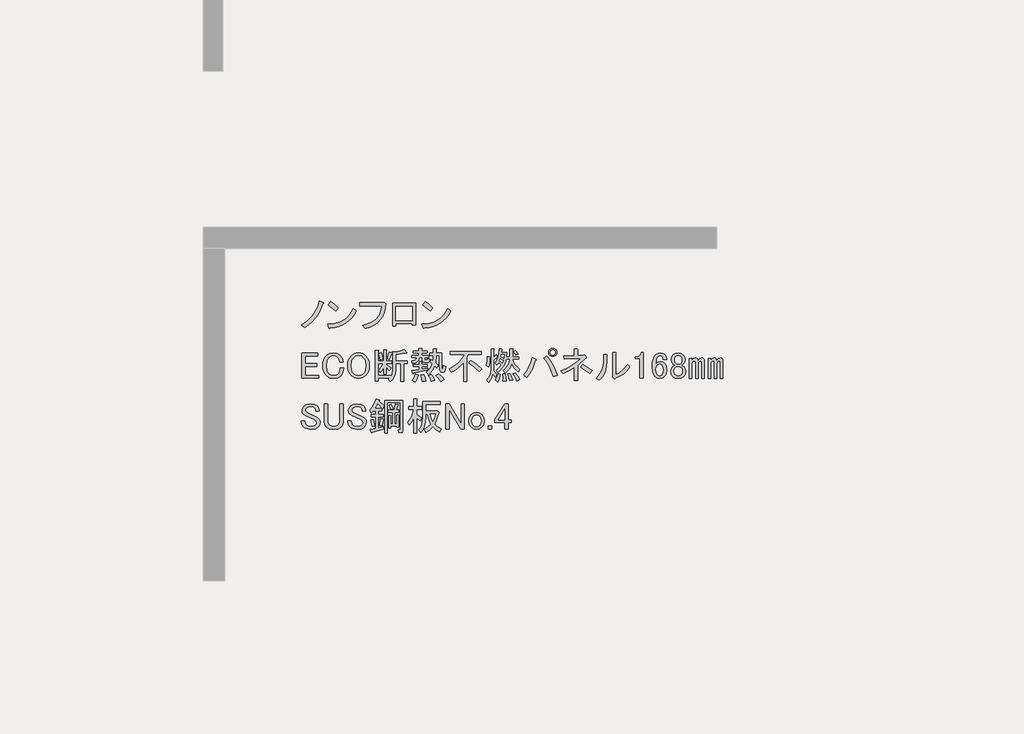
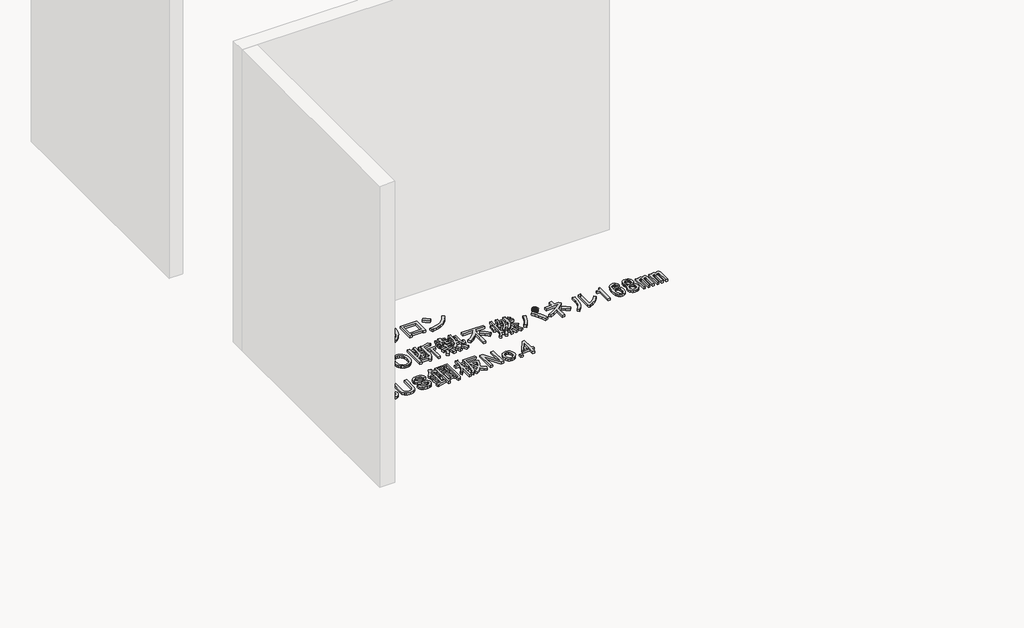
# One storey, part 54 of 117: 1 proxy.
"""IFC4 building model written with IfcOpenShell, lengths in millimetres."""

from ifc_helpers import new_model, si_unit, frame, origin, place, context, project, spatial, polyline, outline, extrude, element, save

model = new_model("IFC4")

# Units and contexts
model_context = context("Model", 3, world=origin())
ifc_project = project(units=[si_unit("LENGTHUNIT", "METRE", prefix="MILLI")], contexts=[model_context])

# Site, building, storey
site = spatial("IfcSite", under=ifc_project)
building = spatial("IfcBuilding", under=site)
storey = spatial("IfcBuildingStorey", under=building, Name="レベル 1", Elevation=500.0)

# Proxy
placement = place(None, origin())
element("IfcBuildingElementProxy", 1, Name="200㎜\u3000MS Pゴシック", ObjectType="200㎜\u3000MS Pゴシック", at=placement, inside=storey, context=model_context, shape_type="SweptSolid", body=[
    extrude(outline(polyline([(48940.1706985, -20603.5496882), (48914.5952502, -20663.3215225), (48886.146156, -20709.2998566), (48844.4782907, -20754.7034615), (48795.3389462, -20792.060858), (48767.7519457, -20770.2211493), (48815.4544673, -20739.7605029), (48855.1107805, -20701.2536481), (48872.4963381, -20677.3305462), (48887.8703435, -20649.2406577), (48901.2327969, -20616.9839827), (48912.5836981, -20580.5605212), (48943.6190736, -20594.3540214), (48946.7800841, -20598.9518548), (48940.1706985, -20603.5496882)])), frame((0.0, 0.0, 500.0), z_axis=(0.0, 0.0, 1.0), x_axis=(1.0, 0.0, 0.0)), (0.0, 0.0, 1.0), 25.0),
    extrude(outline(polyline([(49039.8977052, -20658.7236891), (48981.2753292, -20611.5958967), (49000.8161212, -20587.4572713), (49028.1157571, -20607.2854279), (49061.7374138, -20636.8839804), (49039.8977052, -20658.7236891)])), frame((0.0, 0.0, 500.0), z_axis=(0.0, 0.0, 1.0), x_axis=(1.0, 0.0, 0.0)), (0.0, 0.0, 1.0), 25.0),
    extrude(outline(polyline([(49201.9713328, -20658.7236891), (49185.447869, -20688.465924), (49166.3381239, -20714.4724192), (49144.6420975, -20736.7431748), (49120.3597898, -20755.2781907), (49093.4912008, -20770.077467), (49064.0363306, -20781.1410036), (49031.995179, -20788.4688006), (48997.3677461, -20792.060858), (48991.6204544, -20800.1070664), (48985.8731626, -20794.3597747), (48976.6774958, -20764.4738575), (49012.5082679, -20761.7977748), (49045.2857912, -20755.4937141), (49075.0100658, -20745.5616756), (49101.6810916, -20732.0016591), (49125.2988687, -20714.8136646), (49145.863397, -20693.9976923), (49163.3746766, -20669.553742), (49177.8327074, -20641.4818138), (49201.9713328, -20658.7236891)])), frame((0.0, 0.0, 500.0), z_axis=(0.0, 0.0, 1.0), x_axis=(1.0, 0.0, 0.0)), (0.0, 0.0, 1.0), 25.0),
    extrude(outline(polyline([(49252.7314136, -20773.6695243), (49286.514713, -20763.9889298), (49316.0234641, -20751.6142922), (49341.257667, -20736.5456116), (49362.2173217, -20718.782888), (49378.902428, -20698.3261214), (49391.3129862, -20675.1753118), (49399.4489961, -20649.3304591), (49403.3104577, -20620.7915635), (49230.8917049, -20620.7915635), (49230.8917049, -20595.5034798), (49405.6093744, -20595.5034798), (49421.7017914, -20592.0551047), (49434.3458332, -20603.5496882), (49430.825617, -20640.0449909), (49422.5638851, -20673.0919185), (49409.5606375, -20702.6904711), (49391.8158742, -20728.8406486), (49369.3295952, -20751.542451), (49342.1018005, -20770.7958784), (49310.1324901, -20786.6009308), (49273.421664, -20798.9576081), (49252.7314136, -20773.6695243)])), frame((0.0, 0.0, 500.0), z_axis=(0.0, 0.0, 1.0), x_axis=(1.0, 0.0, 0.0)), (0.0, 0.0, 1.0), 25.0),
    extrude(outline(polyline([(49667.455987, -20772.520066), (49641.0184449, -20772.520066), (49641.0184449, -20759.8760241), (49513.4285679, -20759.8760241), (49513.4285679, -20778.2673577), (49486.9910258, -20778.2673577), (49486.9910258, -20598.9518548), (49667.455987, -20598.9518548), (49667.455987, -20772.520066)]), holes=[polyline([(49513.4285679, -20624.2399386), (49513.4285679, -20734.5879404), (49641.0184449, -20734.5879404), (49641.0184449, -20624.2399386), (49513.4285679, -20624.2399386)])]), frame((0.0, 0.0, 500.0), z_axis=(0.0, 0.0, 1.0), x_axis=(1.0, 0.0, 0.0)), (0.0, 0.0, 1.0), 25.0),
    extrude(outline(polyline([(49943.5099049, -20658.7236891), (49926.9864411, -20688.465924), (49907.876696, -20714.4724192), (49886.1806696, -20736.7431748), (49861.8983619, -20755.2781907), (49835.0297729, -20770.077467), (49805.5749026, -20781.1410036), (49773.5337511, -20788.4688006), (49738.9063182, -20792.060858), (49733.1590264, -20800.1070664), (49727.4117347, -20794.3597747), (49718.2160679, -20764.4738575), (49754.0468399, -20761.7977748), (49786.8243633, -20755.4937141), (49816.5486378, -20745.5616756), (49843.2196637, -20732.0016591), (49866.8374407, -20714.8136646), (49887.4019691, -20693.9976923), (49904.9132486, -20669.553742), (49919.3712795, -20641.4818138), (49943.5099049, -20658.7236891)])), frame((0.0, 0.0, 500.0), z_axis=(0.0, 0.0, 1.0), x_axis=(1.0, 0.0, 0.0)), (0.0, 0.0, 1.0), 25.0),
    extrude(outline(polyline([(49781.4362772, -20658.7236891), (49722.8139013, -20611.5958967), (49742.3546933, -20587.4572713), (49769.6543291, -20607.2854279), (49803.2759859, -20636.8839804), (49781.4362772, -20658.7236891)])), frame((0.0, 0.0, 500.0), z_axis=(0.0, 0.0, 1.0), x_axis=(1.0, 0.0, 0.0)), (0.0, 0.0, 1.0), 25.0),
    extrude(outline(polyline([(48773.4992375, -20992.0551047), (48899.9396562, -20992.0551047), (48899.9396562, -21013.8948134), (48799.9367796, -21013.8948134), (48799.9367796, -21074.816106), (48893.0429061, -21074.816106), (48893.0429061, -21096.6558147), (48799.9367796, -21096.6558147), (48799.9367796, -21166.7727742), (48905.686948, -21166.7727742), (48905.686948, -21188.6124829), (48773.4992375, -21188.6124829), (48773.4992375, -20992.0551047)])), frame((0.0, 0.0, 500.0), z_axis=(0.0, 0.0, 1.0), x_axis=(1.0, 0.0, 0.0)), (0.0, 0.0, 1.0), 25.0),
    extrude(outline(polyline([(48937.7798252, -21090.908523), (48939.5758538, -21066.985421), (48944.9639399, -21045.7922827), (48953.9440832, -21027.3291079), (48966.516284, -21011.5958967), (48991.5170031, -20995.2161152), (49022.8397432, -20989.756188), (49053.5877541, -20994.641386), (49076.8642858, -21009.29698), (49092.6693381, -21032.8608762), (49098.7039944, -21062.1720642), (49071.116994, -21062.1720642), (49066.231796, -21040.9070847), (49056.1740354, -21025.3893969), (49040.9437123, -21015.0442717), (49022.8397432, -21011.5958967), (49003.2989512, -21015.6190009), (48986.0570759, -21027.6883136), (48977.0050914, -21039.3984206), (48970.5393882, -21053.8384911), (48965.3668256, -21090.908523), (48970.5393882, -21127.9785548), (48977.0050914, -21142.4186254), (48986.0570759, -21154.1287323), (49002.7242221, -21165.3359513), (49022.8397432, -21169.0716909), (49043.242629, -21165.9106804), (49058.4729521, -21156.427649), (49070.5422648, -21136.8868571), (49074.5653691, -21110.449315), (49102.1523695, -21110.449315), (49095.8303486, -21145.2204301), (49088.7899162, -21159.3731361), (49079.1632025, -21171.3706076), (49068.3151893, -21179.9197041), (49055.3119417, -21186.0262016), (49022.8397432, -21190.9113996), (48991.5170031, -21185.4514724), (48966.516284, -21169.0716909), (48953.9440832, -21153.4103209), (48944.9639399, -21135.1626695), (48939.5758538, -21114.3287369), (48937.7798252, -21090.908523)])), frame((0.0, 0.0, 500.0), z_axis=(0.0, 0.0, 1.0), x_axis=(1.0, 0.0, 0.0)), (0.0, 0.0, 1.0), 25.0),
    extrude(outline(polyline([(49133.1417667, -21089.7590646), (49134.8659542, -21066.9135799), (49140.0385168, -21046.6543764), (49148.6594544, -21028.9814543), (49160.7287671, -21013.8948134), (49173.4446501, -21003.3341648), (49187.4536738, -20995.7908443), (49202.7558381, -20991.2648521), (49219.3511431, -20989.756188), (49235.946448, -20991.2648521), (49251.2486123, -20995.7908443), (49265.257636, -21003.3341648), (49277.973519, -21013.8948134), (49290.0428317, -21028.9814543), (49298.6637694, -21046.6543764), (49303.836332, -21066.9135799), (49305.5605195, -21089.7590646), (49303.836332, -21112.6045494), (49298.6637694, -21132.8637528), (49290.0428317, -21150.536675), (49277.973519, -21165.6233159), (49265.257636, -21176.1839645), (49251.2486123, -21183.7272849), (49235.946448, -21188.2532772), (49219.3511431, -21189.7619413), (49202.7558381, -21188.2532772), (49187.4536738, -21183.7272849), (49173.4446501, -21176.1839645), (49160.7287671, -21165.6233159), (49148.6594544, -21150.536675), (49140.0385168, -21132.8637528), (49134.8659542, -21112.6045494), (49133.1417667, -21089.7590646)]), holes=[polyline([(49219.3511431, -21011.5958967), (49198.6608927, -21015.9063655), (49180.2695591, -21028.837772), (49171.7204626, -21039.9731498), (49165.6139651, -21053.8384911), (49160.7287671, -21089.7590646), (49165.6139651, -21125.6796381), (49171.7204626, -21139.5449795), (49180.2695591, -21150.6803573), (49198.6608927, -21163.6117637), (49219.3511431, -21167.9222326), (49240.0413934, -21163.6117637), (49258.432727, -21150.6803573), (49266.9818235, -21139.5449795), (49273.088321, -21125.6796381), (49277.973519, -21089.7590646), (49273.088321, -21053.8384911), (49266.9818235, -21039.9731498), (49258.432727, -21028.837772), (49240.0413934, -21015.9063655), (49219.3511431, -21011.5958967)])]), frame((0.0, 0.0, 500.0), z_axis=(0.0, 0.0, 1.0), x_axis=(1.0, 0.0, 0.0)), (0.0, 0.0, 1.0), 25.0),
    extrude(outline(polyline([(49444.3691101, -21035.7345221), (49461.6109854, -20982.8594379), (49482.3012357, -20988.6067296), (49484.0254232, -20991.7677401), (49480.002319, -20994.3540214), (49462.7604437, -21042.6312722), (49444.3691101, -21035.7345221)])), frame((0.0, 0.0, 500.0), z_axis=(0.0, 0.0, 1.0), x_axis=(1.0, 0.0, 0.0)), (0.0, 0.0, 1.0), 25.0),
    extrude(outline(polyline([(49598.3965292, -20987.4572713), (49596.6723417, -20992.0551047), (49589.2008624, -20989.756188), (49512.1871528, -21002.4002299), (49512.1871528, -21051.826939), (49604.143821, -21051.826939), (49604.143821, -21073.6666477), (49573.1084455, -21073.6666477), (49573.1084455, -21213.9005666), (49550.1192785, -21213.9005666), (49550.1192785, -21073.6666477), (49512.1871528, -21073.6666477), (49512.1871528, -21123.0933568), (49509.6008716, -21150.8958807), (49501.8420277, -21175.6810764), (49488.9106212, -21197.448944), (49470.8066522, -21216.1994833), (49453.5647769, -21196.6586914), (49463.9099021, -21187.4630245), (49374.2521506, -21187.4630245), (49374.2521506, -21209.3027332), (49351.2629836, -21209.3027332), (49351.2629836, -20970.215396), (49373.1026922, -20970.215396), (49377.9878902, -20972.5143127), (49374.2521506, -20977.1121461), (49374.2521506, -21052.9763974), (49416.7821096, -21052.9763974), (49416.7821096, -20965.6175626), (49435.1734433, -20965.6175626), (49440.0586413, -20967.9164793), (49436.3229016, -20972.5143127), (49436.3229016, -21052.9763974), (49480.002319, -21052.9763974), (49480.002319, -21071.367731), (49436.3229016, -21071.367731), (49436.3229016, -21080.5633978), (49476.5539439, -21107.0009399), (49462.7604437, -21128.8406486), (49436.3229016, -21102.4031065), (49436.3229016, -21155.2781907), (49416.7821096, -21155.2781907), (49416.7821096, -21107.0009399), (49403.5633386, -21126.8290965), (49389.1951092, -21142.6341488), (49376.5510673, -21124.2428152), (49398.390776, -21100.1041898), (49415.6326513, -21071.367731), (49374.2521506, -21071.367731), (49374.2521506, -21165.6233159), (49471.9561105, -21165.6233159), (49471.9561105, -21179.4168161), (49484.887517, -21155.2781907), (49489.1979858, -21121.9438985), (49489.1979858, -20977.1121461), (49511.0376945, -20982.8594379), (49547.2456326, -20975.3879586), (49577.7062789, -20962.1691875), (49598.3965292, -20987.4572713)])), frame((0.0, 0.0, 500.0), z_axis=(0.0, 0.0, 1.0), x_axis=(1.0, 0.0, 0.0)), (0.0, 0.0, 1.0), 25.0),
    extrude(outline(polyline([(49390.3445675, -21043.7807305), (49377.7005257, -20993.2045631), (49397.2413176, -20986.3078129), (49405.0001615, -21010.4464383), (49409.8853595, -21036.8839804), (49390.3445675, -21043.7807305)])), frame((0.0, 0.0, 500.0), z_axis=(0.0, 0.0, 1.0), x_axis=(1.0, 0.0, 0.0)), (0.0, 0.0, 1.0), 25.0),
    extrude(outline(polyline([(49734.0326148, -21159.8760241), (49744.0903754, -21187.17566), (49748.9755734, -21209.3027332), (49720.2391146, -21215.050025), (49717.6528333, -21193.4976809), (49709.8939894, -21163.3243992), (49734.0326148, -21159.8760241)])), frame((0.0, 0.0, 500.0), z_axis=(0.0, 0.0, 1.0), x_axis=(1.0, 0.0, 0.0)), (0.0, 0.0, 1.0), 25.0),
    extrude(outline(polyline([(49790.356074, -21212.7511083), (49782.022501, -21188.0377537), (49768.5163654, -21166.7727742), (49789.2066157, -21158.7265657), (49806.1611264, -21180.2789098), (49817.9430745, -21203.5554415), (49790.356074, -21212.7511083)])), frame((0.0, 0.0, 500.0), z_axis=(0.0, 0.0, 1.0), x_axis=(1.0, 0.0, 0.0)), (0.0, 0.0, 1.0), 25.0),
    extrude(outline(polyline([(49689.2037391, -21164.4738575), (49692.6521141, -21169.3590555), (49686.9048224, -21172.520066), (49677.1344264, -21198.0955143), (49666.214572, -21217.3489417), (49643.225405, -21205.8543582), (49655.8694469, -21182.290462), (49666.214572, -21155.2781907), (49689.2037391, -21164.4738575)])), frame((0.0, 0.0, 500.0), z_axis=(0.0, 0.0, 1.0), x_axis=(1.0, 0.0, 0.0)), (0.0, 0.0, 1.0), 25.0),
    extrude(outline(polyline([(49721.3885729, -21027.6883136), (49696.1004892, -21027.6883136), (49691.5026558, -21045.1457123), (49681.1575306, -21058.4363245), (49665.0651137, -21067.5601502), (49643.225405, -21072.5171893), (49638.6275716, -21052.9763974), (49663.9156553, -21044.3554597), (49671.3871346, -21037.0276627), (49675.4102388, -21027.6883136), (49639.7770299, -21027.6883136), (49639.7770299, -21009.29698), (49693.8015725, -21009.29698), (49693.8015725, -20992.0551047), (49650.1221551, -20992.0551047), (49650.1221551, -20973.6637711), (49693.8015725, -20973.6637711), (49693.8015725, -20955.2724374), (49715.6412812, -20955.2724374), (49720.5264792, -20957.5713541), (49716.7907395, -20962.1691875), (49716.7907395, -20973.6637711), (49759.3206985, -20973.6637711), (49759.3206985, -20992.0551047), (49716.7907395, -20992.0551047), (49716.7907395, -21009.29698), (49769.6658237, -21009.29698), (49769.6658237, -21027.6883136), (49740.9293649, -21027.6883136), (49740.9293649, -21040.3323555), (49742.3661878, -21045.5049181), (49746.6766567, -21047.2291056), (49757.0217818, -21047.2291056), (49760.7575215, -21044.0680951), (49760.4701569, -21034.5850637), (49780.0109489, -21036.8839804), (49777.137303, -21058.4363245), (49771.8210581, -21063.8244106), (49763.9185319, -21065.6204392), (49739.7799066, -21065.6204392), (49725.9864063, -21060.7352412), (49721.3885729, -21046.0796472), (49721.3885729, -21027.6883136)])), frame((0.0, 0.0, 500.0), z_axis=(0.0, 0.0, 1.0), x_axis=(1.0, 0.0, 0.0)), (0.0, 0.0, 1.0), 25.0),
    extrude(outline(polyline([(49852.4268251, -21010.4464383), (49830.5871164, -21010.4464383), (49825.989283, -21067.9193559), (49845.5300749, -21086.3106896), (49835.1849498, -21108.1503983), (49819.0925328, -21092.0579813), (49799.8391054, -21129.7027424), (49769.6658237, -21162.1749408), (49752.4239484, -21141.4846905), (49767.5105893, -21129.5590601), (49780.585678, -21114.4724192), (49791.6492147, -21096.2247679), (49800.7011992, -21074.816106), (49783.4593239, -21059.8731475), (49791.5055324, -21042.6312722), (49805.2990326, -21052.9763974), (49807.5979493, -21010.4464383), (49780.0109489, -21010.4464383), (49780.0109489, -20992.0551047), (49807.5979493, -20992.0551047), (49807.5979493, -20957.5713541), (49829.437658, -20957.5713541), (49834.322856, -20959.8702708), (49830.5871164, -20964.4681043), (49830.5871164, -20992.0551047), (49871.967617, -20992.0551047), (49871.967617, -21088.6096063), (49875.4159921, -21112.7482317), (49878.6488437, -21114.7597838), (49881.4506484, -21111.5987733), (49885.7611173, -21089.7590646), (49905.3019092, -21096.6558147), (49900.775917, -21123.4525626), (49892.945232, -21139.4731384), (49881.8098542, -21144.7175421), (49867.3697836, -21139.1857738), (49860.8322393, -21131.8579768), (49856.1625647, -21120.219711), (49852.4268251, -21084.0117729), (49852.4268251, -21010.4464383)])), frame((0.0, 0.0, 500.0), z_axis=(0.0, 0.0, 1.0), x_axis=(1.0, 0.0, 0.0)), (0.0, 0.0, 1.0), 25.0),
    extrude(outline(polyline([(49651.2716134, -21149.5308989), (49649.2600613, -21154.4160969), (49645.5243217, -21152.979274), (49639.7770299, -21128.8406486), (49694.9510308, -21120.7944401), (49694.9510308, -21097.8052731), (49651.2716134, -21097.8052731), (49651.2716134, -21079.4139395), (49694.9510308, -21079.4139395), (49694.9510308, -21056.4247724), (49713.3423645, -21056.4247724), (49718.2275625, -21058.7236891), (49714.4918228, -21063.3215225), (49714.4918228, -21079.4139395), (49759.3206985, -21079.4139395), (49759.3206985, -21097.8052731), (49714.4918228, -21097.8052731), (49714.4918228, -21117.3460651), (49765.0679903, -21108.1503983), (49765.0679903, -21124.2428152), (49651.2716134, -21149.5308989)])), frame((0.0, 0.0, 500.0), z_axis=(0.0, 0.0, 1.0), x_axis=(1.0, 0.0, 0.0)), (0.0, 0.0, 1.0), 25.0),
    extrude(outline(polyline([(49848.97845, -21154.1287323), (49873.6918046, -21175.3937119), (49892.6578674, -21200.1070664), (49866.2203253, -21215.050025), (49846.9668979, -21185.4514724), (49828.2881997, -21165.6233159), (49848.97845, -21154.1287323)])), frame((0.0, 0.0, 500.0), z_axis=(0.0, 0.0, 1.0), x_axis=(1.0, 0.0, 0.0)), (0.0, 0.0, 1.0), 25.0),
    extrude(outline(polyline([(50167.3784135, -21138.0363154), (50128.2968295, -21099.8168252), (50086.9163289, -21070.2182726), (50103.0087458, -21049.5280223), (50146.6881632, -21077.6897519), (50188.0686638, -21116.1966067), (50167.3784135, -21138.0363154)])), frame((0.0, 0.0, 500.0), z_axis=(0.0, 0.0, 1.0), x_axis=(1.0, 0.0, 0.0)), (0.0, 0.0, 1.0), 25.0),
    extrude(outline(polyline([(49940.9351182, -20977.1121461), (50182.3213721, -20977.1121461), (50182.3213721, -21002.4002299), (50082.3184955, -21002.4002299), (50071.9733703, -21026.5388553), (50071.9733703, -21212.7511083), (50045.5358282, -21212.7511083), (50045.5358282, -21065.6204392), (50024.7018956, -21088.8969709), (50001.2816816, -21109.2998566), (49975.2751864, -21126.8290965), (49946.6824099, -21141.4846905), (49930.589993, -21115.0471484), (49970.174465, -21094.6442626), (50003.8679629, -21069.0688143), (50031.6704868, -21038.3208034), (50053.5820367, -21002.4002299), (49940.9351182, -21002.4002299), (49940.9351182, -20977.1121461)])), frame((0.0, 0.0, 500.0), z_axis=(0.0, 0.0, 1.0), x_axis=(1.0, 0.0, 0.0)), (0.0, 0.0, 1.0), 25.0),
    extrude(outline(polyline([(50354.7401249, -21211.6016499), (50355.3148541, -21184.5893787), (50352.4412082, -21156.427649), (50371.9820002, -21155.2781907), (50378.3040211, -21181.4283682), (50378.8787503, -21209.3027332), (50354.7401249, -21211.6016499)])), frame((0.0, 0.0, 500.0), z_axis=(0.0, 0.0, 1.0), x_axis=(1.0, 0.0, 0.0)), (0.0, 0.0, 1.0), 25.0),
    extrude(outline(polyline([(50335.1993329, -21159.8760241), (50326.5783953, -21190.3366704), (50312.2101659, -21217.3489417), (50292.6693739, -21204.7048998), (50306.7502387, -21179.9915453), (50316.8079993, -21151.8298156), (50335.1993329, -21159.8760241)])), frame((0.0, 0.0, 500.0), z_axis=(0.0, 0.0, 1.0), x_axis=(1.0, 0.0, 0.0)), (0.0, 0.0, 1.0), 25.0),
    extrude(outline(polyline([(50250.1394149, -21021.9410219), (50254.7372483, -21024.2399386), (50250.1394149, -21028.837772), (50248.9899565, -21068.4940851), (50243.2426647, -21102.4031065), (50224.8513311, -21089.7590646), (50230.5986229, -21055.2753141), (50231.7480812, -21018.4926468), (50250.1394149, -21021.9410219)])), frame((0.0, 0.0, 500.0), z_axis=(0.0, 0.0, 1.0), x_axis=(1.0, 0.0, 0.0)), (0.0, 0.0, 1.0), 25.0),
    extrude(outline(polyline([(50301.8650407, -21003.5496882), (50311.0607075, -21020.7915635), (50312.4975305, -21026.8262199), (50307.6123325, -21026.5388553), (50281.1747904, -21047.2291056), (50281.1747904, -21131.1395653), (50294.9682906, -21143.4962426), (50306.4628741, -21159.8760241), (50293.8188322, -21180.5662744), (50275.4274986, -21155.2781907), (50263.6455505, -21191.1987642), (50242.0932064, -21220.7973168), (50227.1502478, -21202.4059831), (50242.2368887, -21183.6554438), (50253.0130607, -21163.0370346), (50259.478764, -21140.5507556), (50261.6339984, -21116.1966067), (50261.6339984, -20958.7208125), (50280.025332, -20958.7208125), (50284.91053, -20961.0197292), (50281.1747904, -20965.6175626), (50281.1747904, -21024.2399386), (50301.8650407, -21003.5496882)])), frame((0.0, 0.0, 500.0), z_axis=(0.0, 0.0, 1.0), x_axis=(1.0, 0.0, 0.0)), (0.0, 0.0, 1.0), 25.0),
    extrude(outline(polyline([(50452.4440848, -20972.5143127), (50474.2837935, -20996.6529381), (50457.0419182, -21008.1475216), (50450.4325327, -20996.6529381), (50437.5011262, -20982.8594379), (50452.4440848, -20972.5143127)])), frame((0.0, 0.0, 500.0), z_axis=(0.0, 0.0, 1.0), x_axis=(1.0, 0.0, 0.0)), (0.0, 0.0, 1.0), 25.0),
    extrude(outline(polyline([(50462.78921, -21209.3027332), (50449.5704389, -21181.1410036), (50432.9032928, -21156.427649), (50451.2946265, -21148.3814406), (50470.2606893, -21171.3706076), (50485.778377, -21198.9576081), (50462.78921, -21209.3027332)])), frame((0.0, 0.0, 500.0), z_axis=(0.0, 0.0, 1.0), x_axis=(1.0, 0.0, 0.0)), (0.0, 0.0, 1.0), 25.0),
    extrude(outline(polyline([(50413.3625008, -21154.1287323), (50431.7538345, -21203.5554415), (50407.6152091, -21208.1532749), (50393.8217089, -21157.5771074), (50413.3625008, -21154.1287323)])), frame((0.0, 0.0, 500.0), z_axis=(0.0, 0.0, 1.0), x_axis=(1.0, 0.0, 0.0)), (0.0, 0.0, 1.0), 25.0),
    extrude(outline(polyline([(50474.2837935, -21139.1857738), (50443.5357826, -21108.7251274), (50422.5581677, -21074.816106), (50414.1527535, -21096.9431793), (50402.7300111, -21116.1966067), (50388.2899405, -21132.5763882), (50370.8325418, -21146.0825239), (50357.0390416, -21127.6911902), (50377.8729742, -21108.7969686), (50393.2469797, -21087.7475125), (50403.161058, -21064.542822), (50407.6152091, -21039.1828971), (50378.8787503, -21039.1828971), (50370.904383, -21069.7872258), (50357.3264062, -21097.2305439), (50338.1448199, -21121.5128516), (50313.3596242, -21142.6341488), (50300.7155823, -21126.5417319), (50326.5783953, -21104.9893878), (50342.096083, -21084.0117729), (50320.2563743, -21064.4709809), (50306.4628741, -21085.1612312), (50292.6693739, -21070.2182726), (50305.0978923, -21051.1803687), (50314.7964472, -21026.2514907), (50321.7650384, -20995.4316386), (50326.0036661, -20958.7208125), (50346.6939164, -20961.0197292), (50350.1422915, -20963.6060105), (50344.3949997, -20966.767021), (50342.096083, -20985.1583546), (50385.7755004, -20985.1583546), (50382.3271253, -21020.7915635), (50407.6152091, -21020.7915635), (50407.6152091, -20958.7208125), (50429.4549178, -20958.7208125), (50434.3401158, -20961.0197292), (50430.6043761, -20965.6175626), (50430.6043761, -21020.7915635), (50480.0310853, -21020.7915635), (50480.0310853, -21039.1828971), (50430.6043761, -21039.1828971), (50437.1419205, -21060.9507647), (50448.7083452, -21081.4254916), (50465.3036501, -21100.6070778), (50486.9278354, -21118.4955234), (50474.2837935, -21139.1857738)]), holes=[polyline([(50350.1422915, -21069.0688143), (50357.0390416, -21049.5280223), (50331.7509579, -21033.4356054), (50326.0036661, -21050.6774807), (50350.1422915, -21069.0688143)]), polyline([(50339.7971663, -21003.5496882), (50336.3487913, -21019.6421052), (50361.636875, -21033.4356054), (50366.2347084, -21003.5496882), (50339.7971663, -21003.5496882)])]), frame((0.0, 0.0, 500.0), z_axis=(0.0, 0.0, 1.0), x_axis=(1.0, 0.0, 0.0)), (0.0, 0.0, 1.0), 25.0),
    extrude(outline(polyline([(50699.5776305, -21012.745355), (50726.230696, -21049.4561812), (50748.7169751, -21087.1727833), (50767.0364675, -21125.8951616), (50781.1891735, -21165.6233159), (50750.153798, -21175.968441), (50734.7079514, -21132.8637528), (50717.1068704, -21094.356898), (50697.3505549, -21060.4478766), (50675.4390051, -21031.1366887), (50699.5776305, -21012.745355)])), frame((0.0, 0.0, 500.0), z_axis=(0.0, 0.0, 1.0), x_axis=(1.0, 0.0, 0.0)), (0.0, 0.0, 1.0), 25.0),
    extrude(outline(polyline([(50612.2187958, -21039.1828971), (50616.2419, -21044.6428243), (50609.919879, -21049.5280223), (50597.9942486, -21084.9457078), (50582.9076078, -21118.782888), (50564.6599564, -21151.039563), (50543.2512946, -21181.7157328), (50516.8137525, -21164.4738575), (50540.018443, -21133.0074351), (50559.056347, -21099.5294606), (50573.9274644, -21064.039934), (50584.6317953, -21026.5388553), (50612.2187958, -21039.1828971)])), frame((0.0, 0.0, 500.0), z_axis=(0.0, 0.0, 1.0), x_axis=(1.0, 0.0, 0.0)), (0.0, 0.0, 1.0), 25.0),
    extrude(outline(polyline([(50745.5559646, -21018.4926468), (50732.9119227, -21016.1937301), (50722.5667975, -21009.29698), (50715.6700474, -20998.9518548), (50713.3711307, -20986.3078129), (50715.6700474, -20973.6637711), (50722.5667975, -20963.3186459), (50732.9119227, -20956.4218958), (50745.5559646, -20954.1229791), (50758.2000065, -20956.4218958), (50768.5451316, -20963.3186459), (50775.4418817, -20973.6637711), (50777.7407984, -20986.3078129), (50775.4418817, -20998.9518548), (50768.5451316, -21009.29698), (50758.2000065, -21016.1937301), (50745.5559646, -21018.4926468)]), holes=[polyline([(50745.5559646, -21006.9980633), (50753.8895376, -21005.5612403), (50760.4989232, -21001.2507715), (50764.809392, -20994.641386), (50766.2462149, -20986.3078129), (50764.809392, -20977.9742399), (50760.4989232, -20971.3648544), (50753.8895376, -20967.0543855), (50745.5559646, -20965.6175626), (50737.2223915, -20967.0543855), (50730.613006, -20971.3648544), (50726.3025372, -20977.9742399), (50724.8657143, -20986.3078129), (50726.3025372, -20994.641386), (50730.613006, -21001.2507715), (50737.2223915, -21005.5612403), (50745.5559646, -21006.9980633)])]), frame((0.0, 0.0, 500.0), z_axis=(0.0, 0.0, 1.0), x_axis=(1.0, 0.0, 0.0)), (0.0, 0.0, 1.0), 25.0),
    extrude(outline(polyline([(50989.2411352, -21008.1475216), (50996.1378853, -21005.8486049), (51008.7819272, -21023.0904802), (51009.9313856, -21029.1251366), (51004.1840938, -21031.1366887), (50940.9638844, -21087.4601479), (50940.9638844, -21208.1532749), (50914.5263423, -21208.1532749), (50914.5263423, -21105.8514816), (50874.2953, -21129.9901069), (50829.4664243, -21151.8298156), (50809.9256323, -21131.1395653), (50855.4729195, -21111.6706145), (50896.7097379, -21088.8969709), (50933.6360874, -21062.8186345), (50966.2519682, -21033.4356054), (50836.3631744, -21039.1828971), (50832.9147993, -21013.8948134), (50914.5263423, -21011.5958967), (50914.5263423, -20959.8702708), (50937.5155094, -20959.8702708), (50943.5501657, -20963.3186459), (50940.9638844, -20969.0659377), (50940.9638844, -21010.4464383), (50989.2411352, -21008.1475216)])), frame((0.0, 0.0, 500.0), z_axis=(0.0, 0.0, 1.0), x_axis=(1.0, 0.0, 0.0)), (0.0, 0.0, 1.0), 25.0),
    extrude(outline(polyline([(51035.2194693, -21151.8298156), (50998.1494375, -21122.5186277), (50965.1025098, -21101.2536481), (50982.3443851, -21079.4139395), (51021.1386045, -21102.6904711), (51054.7602613, -21128.8406486), (51035.2194693, -21151.8298156)])), frame((0.0, 0.0, 500.0), z_axis=(0.0, 0.0, 1.0), x_axis=(1.0, 0.0, 0.0)), (0.0, 0.0, 1.0), 25.0),
    extrude(outline(polyline([(51242.2139293, -21158.7265657), (51266.9991251, -21146.5135708), (51290.7785447, -21129.4153778), (51313.5521883, -21107.4319868), (51335.3200559, -21080.5633978), (51351.4124728, -21102.4031065), (51328.1359412, -21130.2056304), (51301.9857636, -21153.8413678), (51272.9619403, -21173.3103186), (51241.064471, -21188.6124829), (51231.8688042, -21193.2103163), (51213.4774705, -21179.4168161), (51215.7763872, -21173.6695243), (51215.7763872, -20988.6067296), (51239.9150126, -20988.6067296), (51245.6623044, -20992.0551047), (51242.2139293, -20997.8023965), (51242.2139293, -21158.7265657)])), frame((0.0, 0.0, 500.0), z_axis=(0.0, 0.0, 1.0), x_axis=(1.0, 0.0, 0.0)), (0.0, 0.0, 1.0), 25.0),
    extrude(outline(polyline([(51088.1865102, -21189.7619413), (51113.3309116, -21160.5225944), (51131.2911984, -21127.9785548), (51142.0673704, -21092.1298225), (51145.6594278, -21052.9763974), (51145.6594278, -21001.2507715), (51169.7980532, -21001.2507715), (51175.5453449, -21004.6991466), (51172.0969699, -21010.4464383), (51172.0969699, -21051.826939), (51168.2893891, -21097.5897496), (51156.8666467, -21138.32368), (51137.8287427, -21174.0287301), (51111.1756772, -21204.7048998), (51088.1865102, -21189.7619413)])), frame((0.0, 0.0, 500.0), z_axis=(0.0, 0.0, 1.0), x_axis=(1.0, 0.0, 0.0)), (0.0, 0.0, 1.0), 25.0),
    extrude(outline(polyline([(51430.7250991, -21011.5958967), (51438.7713075, -21000.6760423), (51442.2196826, -20988.6067296), (51456.0131828, -20988.6067296), (51456.0131828, -21187.4630245), (51429.5756407, -21187.4630245), (51429.5756407, -21034.5850637), (51395.0918902, -21034.5850637), (51395.0918902, -21020.7915635), (51405.4370153, -21020.7915635), (51419.8052447, -21018.4926468), (51430.7250991, -21011.5958967)])), frame((0.0, 0.0, 500.0), z_axis=(0.0, 0.0, 1.0), x_axis=(1.0, 0.0, 0.0)), (0.0, 0.0, 1.0), 25.0),
    extrude(outline(polyline([(51527.2796006, -21094.356898), (51529.0037882, -21064.9738689), (51534.1763508, -21040.0449909), (51542.7972884, -21019.570264), (51554.8666011, -21003.5496882), (51570.3842888, -20993.2045631), (51589.3503517, -20989.756188), (51609.1785082, -20993.2045631), (51624.9835606, -21003.5496882), (51636.1907795, -21020.5041989), (51639.9265191, -21041.4818138), (51613.488977, -21041.4818138), (51611.7647895, -21027.6883136), (51606.5922269, -21018.4926468), (51598.8333831, -21013.3200842), (51589.3503517, -21011.5958967), (51579.8673203, -21013.3200842), (51572.1084764, -21018.4926468), (51564.0622679, -21029.4125011), (51558.3149762, -21043.7807305), (51553.7171427, -21082.8623145), (51565.2117263, -21067.9193559), (51576.7063098, -21060.1605121), (51590.49981, -21057.5742308), (51609.4658728, -21061.0226058), (51624.9835606, -21071.367731), (51637.914967, -21092.9200751), (51642.2254359, -21123.0933568), (51637.6276024, -21154.4160969), (51623.8341022, -21177.1178994), (51607.4543207, -21187.4630245), (51585.9019766, -21190.9113996), (51566.07382, -21186.6009308), (51547.969851, -21173.6695243), (51538.9178665, -21160.9536413), (51532.4521632, -21143.4962426), (51527.2796006, -21094.356898)]), holes=[polyline([(51588.2008933, -21078.2644811), (51577.5684035, -21080.2760332), (51568.6601013, -21086.3106896), (51559.1770699, -21101.2536481), (51556.0160594, -21120.7944401), (51559.4644345, -21144.9330655), (51569.8095597, -21162.1749408), (51578.1431327, -21168.2095972), (51587.051435, -21170.2211493), (51596.5344664, -21168.4969617), (51604.2933102, -21163.3243992), (51612.0521541, -21148.094076), (51614.6384354, -21123.0933568), (51612.0521541, -21100.678919), (51604.2933102, -21086.3106896), (51596.2471018, -21080.2760332), (51588.2008933, -21078.2644811)])]), frame((0.0, 0.0, 500.0), z_axis=(0.0, 0.0, 1.0), x_axis=(1.0, 0.0, 0.0)), (0.0, 0.0, 1.0), 25.0),
    extrude(outline(polyline([(51677.8586448, -21044.9301889), (51681.881749, -21021.9410219), (51693.9510617, -21003.5496882), (51710.3308432, -20993.2045631), (51731.8831873, -20989.756188), (51753.722896, -20993.4919276), (51770.9647713, -21004.6991466), (51782.1719902, -21022.2283864), (51785.9077299, -21044.9301889), (51782.4593548, -21063.0341579), (51772.1142296, -21078.2644811), (51758.3207294, -21086.3106896), (51758.3207294, -21088.6096063), (51768.37849, -21092.6327105), (51777.8615214, -21100.1041898), (51788.2066466, -21116.1966067), (51791.6550216, -21136.8868571), (51787.6319174, -21158.1518366), (51775.5626047, -21175.968441), (51757.1712711, -21187.17566), (51731.8831873, -21190.9113996), (51706.5951036, -21187.17566), (51688.2037699, -21175.968441), (51676.1344572, -21158.1518366), (51672.111353, -21136.8868571), (51675.5597281, -21116.1966067), (51685.9048532, -21100.1041898), (51695.3878846, -21092.6327105), (51705.4456452, -21088.6096063), (51705.4456452, -21086.3106896), (51690.5026866, -21075.9655644), (51681.0196552, -21061.8846996), (51677.8586448, -21044.9301889)]), holes=[polyline([(51731.8831873, -21010.4464383), (51721.2506976, -21012.4579905), (51712.3423953, -21018.4926468), (51705.4456452, -21029.6998657), (51703.1467285, -21044.9301889), (51705.4456452, -21059.2984183), (51712.3423953, -21070.2182726), (51720.963333, -21076.252929), (51730.733729, -21078.2644811), (51742.8030417, -21076.5402936), (51751.4239793, -21071.367731), (51758.3207294, -21060.1605121), (51760.6196461, -21044.9301889), (51758.3207294, -21029.6998657), (51751.4239793, -21018.4926468), (51742.5156771, -21012.4579905), (51731.8831873, -21010.4464383)]), polyline([(51731.8831873, -21097.8052731), (51718.3770517, -21100.1041898), (51707.7445619, -21107.0009399), (51700.8478118, -21118.2081588), (51698.5488951, -21133.438482), (51701.1351764, -21148.9561698), (51708.8940203, -21161.0254825), (51719.2391454, -21167.9222326), (51731.8831873, -21170.2211493), (51744.5272292, -21167.9222326), (51754.8723544, -21161.0254825), (51762.6311982, -21148.9561698), (51765.2174795, -21133.438482), (51762.6311982, -21117.9207943), (51754.8723544, -21105.8514816), (51745.1019584, -21099.8168252), (51731.8831873, -21097.8052731)])]), frame((0.0, 0.0, 500.0), z_axis=(0.0, 0.0, 1.0), x_axis=(1.0, 0.0, 0.0)), (0.0, 0.0, 1.0), 25.0),
    extrude(outline(polyline([(51839.9322724, -21189.7619413), (51820.3914804, -21189.7619413), (51820.3914804, -21032.286147), (51839.9322724, -21032.286147), (51839.9322724, -21049.5280223), (51852.0015851, -21034.0103346), (51865.2203561, -21028.837772), (51874.416023, -21030.2745949), (51881.3127731, -21034.5850637), (51888.2095232, -21048.378564), (51901.1409296, -21033.72297), (51914.6470653, -21028.837772), (51922.9806383, -21030.2745949), (51929.5900239, -21034.5850637), (51934.7625864, -21043.2060014), (51936.486774, -21055.2753141), (51936.486774, -21189.7619413), (51916.945982, -21189.7619413), (51916.945982, -21065.6204392), (51914.3597007, -21056.1374078), (51906.6008568, -21052.9763974), (51896.2557317, -21057.5742308), (51890.2210753, -21066.1951684), (51888.2095232, -21075.9655644), (51888.2095232, -21189.7619413), (51868.6687312, -21189.7619413), (51868.6687312, -21065.6204392), (51866.0824499, -21056.1374078), (51858.323606, -21052.9763974), (51847.9784809, -21057.5742308), (51841.9438245, -21066.1951684), (51839.9322724, -21075.9655644), (51839.9322724, -21189.7619413)])), frame((0.0, 0.0, 500.0), z_axis=(0.0, 0.0, 1.0), x_axis=(1.0, 0.0, 0.0)), (0.0, 0.0, 1.0), 25.0),
    extrude(outline(polyline([(52061.7777343, -21028.837772), (52070.1113074, -21030.2745949), (52076.7206929, -21034.5850637), (52081.8932555, -21043.2060014), (52083.617443, -21055.2753141), (52083.617443, -21189.7619413), (52064.0766511, -21189.7619413), (52064.0766511, -21065.6204392), (52061.4903698, -21056.1374078), (52053.7315259, -21052.9763974), (52043.3864007, -21057.5742308), (52037.3517444, -21066.1951684), (52035.3401922, -21075.9655644), (52035.3401922, -21189.7619413), (52015.7994003, -21189.7619413), (52015.7994003, -21065.6204392), (52013.213119, -21056.1374078), (52005.4542751, -21052.9763974), (51995.1091499, -21057.5742308), (51989.0744936, -21066.1951684), (51987.0629415, -21075.9655644), (51987.0629415, -21189.7619413), (51967.5221495, -21189.7619413), (51967.5221495, -21032.286147), (51987.0629415, -21032.286147), (51987.0629415, -21049.5280223), (51999.1322542, -21034.0103346), (52012.3510252, -21028.837772), (52021.546692, -21030.2745949), (52028.4434421, -21034.5850637), (52035.3401922, -21048.378564), (52048.2715987, -21033.72297), (52061.7777343, -21028.837772)])), frame((0.0, 0.0, 500.0), z_axis=(0.0, 0.0, 1.0), x_axis=(1.0, 0.0, 0.0)), (0.0, 0.0, 1.0), 25.0),
    extrude(outline(polyline([(48775.7981542, -21443.7807305), (48779.8212584, -21423.3778448), (48791.8905711, -21405.8486049), (48812.2934569, -21393.7792922), (48841.3172803, -21389.756188), (48872.6400204, -21394.3540214), (48895.3418228, -21408.1475216), (48907.4111355, -21425.6767615), (48911.4342397, -21446.0796472), (48884.9966976, -21446.0796472), (48882.6977809, -21433.4356054), (48875.8010308, -21423.0904802), (48862.5822598, -21415.3316363), (48843.616197, -21412.745355), (48823.2133112, -21415.0442717), (48810.2819048, -21421.9410219), (48804.2472484, -21430.5619595), (48802.2356963, -21440.3323555), (48806.8335297, -21455.2753141), (48827.52378, -21466.7698976), (48887.2956143, -21493.2074397), (48904.5374896, -21504.7020232), (48914.020521, -21518.4955234), (48917.1815315, -21534.5879404), (48913.1584273, -21555.8529199), (48901.0891146, -21573.6695243), (48891.1031951, -21581.2128448), (48878.3873121, -21586.6009308), (48844.7656553, -21590.9113996), (48811.1439985, -21585.738837), (48797.5660217, -21579.2731338), (48786.1432794, -21570.2211493), (48774.9360604, -21551.8298156), (48771.2003208, -21526.5417319), (48797.6378629, -21526.5417319), (48799.9367796, -21544.3583363), (48806.8335297, -21556.427649), (48822.9259466, -21565.9106804), (48845.9151137, -21569.0716909), (48866.8927286, -21566.198045), (48881.5483226, -21557.5771074), (48888.4450727, -21548.3814406), (48890.7439894, -21539.1857738), (48889.0198019, -21529.7027424), (48883.8472393, -21521.9438985), (48865.4559057, -21510.449315), (48835.5699885, -21496.6558147), (48802.2356963, -21481.7128562), (48786.1432794, -21471.367731), (48778.3844355, -21459.2984183), (48775.7981542, -21443.7807305)])), frame((0.0, 0.0, 500.0), z_axis=(0.0, 0.0, 1.0), x_axis=(1.0, 0.0, 0.0)), (0.0, 0.0, 1.0), 25.0),
    extrude(outline(polyline([(48951.2054987, -21392.0551047), (48977.6430408, -21392.0551047), (48977.6430408, -21529.9901069), (48980.2293221, -21544.6457009), (48987.988166, -21556.427649), (49003.5058537, -21565.9106804), (49024.7708332, -21569.0716909), (49046.0358128, -21565.9106804), (49061.5535005, -21556.427649), (49069.3123444, -21544.6457009), (49071.8986257, -21529.9901069), (49071.8986257, -21392.0551047), (49098.3361678, -21392.0551047), (49098.3361678, -21531.1395653), (49094.3130635, -21554.1287323), (49082.2437508, -21572.520066), (49071.7549434, -21580.5662744), (49058.6798546, -21586.3135662), (49024.7708332, -21590.9113996), (48990.8618119, -21586.3135662), (48977.7867231, -21580.5662744), (48967.2979156, -21572.520066), (48955.2286029, -21554.1287323), (48951.2054987, -21531.1395653), (48951.2054987, -21392.0551047)])), frame((0.0, 0.0, 500.0), z_axis=(0.0, 0.0, 1.0), x_axis=(1.0, 0.0, 0.0)), (0.0, 0.0, 1.0), 25.0),
    extrude(outline(polyline([(49140.6822135, -21443.7807305), (49144.7053177, -21423.3778448), (49156.7746304, -21405.8486049), (49177.1775161, -21393.7792922), (49206.2013395, -21389.756188), (49237.5240796, -21394.3540214), (49260.2258821, -21408.1475216), (49272.2951948, -21425.6767615), (49276.318299, -21446.0796472), (49249.8807569, -21446.0796472), (49247.5818402, -21433.4356054), (49240.6850901, -21423.0904802), (49227.466319, -21415.3316363), (49208.5002562, -21412.745355), (49188.0973705, -21415.0442717), (49175.165964, -21421.9410219), (49169.1313077, -21430.5619595), (49167.1197556, -21440.3323555), (49171.717589, -21455.2753141), (49192.4078393, -21466.7698976), (49252.1796736, -21493.2074397), (49269.4215489, -21504.7020232), (49278.9045803, -21518.4955234), (49282.0655908, -21534.5879404), (49278.0424865, -21555.8529199), (49265.9731738, -21573.6695243), (49255.9872544, -21581.2128448), (49243.2713714, -21586.6009308), (49209.6497146, -21590.9113996), (49176.0280578, -21585.738837), (49162.450081, -21579.2731338), (49151.0273386, -21570.2211493), (49139.8201197, -21551.8298156), (49136.0843801, -21526.5417319), (49162.5219222, -21526.5417319), (49164.8208389, -21544.3583363), (49171.717589, -21556.427649), (49187.8100059, -21565.9106804), (49210.7991729, -21569.0716909), (49231.7767879, -21566.198045), (49246.4323819, -21557.5771074), (49253.329132, -21548.3814406), (49255.6280487, -21539.1857738), (49253.9038611, -21529.7027424), (49248.7312986, -21521.9438985), (49230.3399649, -21510.449315), (49200.4540478, -21496.6558147), (49167.1197556, -21481.7128562), (49151.0273386, -21471.367731), (49143.2684948, -21459.2984183), (49140.6822135, -21443.7807305)])), frame((0.0, 0.0, 500.0), z_axis=(0.0, 0.0, 1.0), x_axis=(1.0, 0.0, 0.0)), (0.0, 0.0, 1.0), 25.0),
    extrude(outline(polyline([(49410.3451429, -21431.1366887), (49368.9646422, -21387.4572713), (49347.1249335, -21426.5388553), (49402.2989344, -21426.5388553), (49402.2989344, -21444.9301889), (49375.8613923, -21444.9301889), (49375.8613923, -21473.6666477), (49413.7935179, -21473.6666477), (49413.7935179, -21492.0579813), (49375.8613923, -21492.0579813), (49375.8613923, -21579.4168161), (49414.9429763, -21569.0716909), (49417.241893, -21588.6124829), (49325.2852248, -21613.9005666), (49322.9863081, -21619.6478584), (49318.3884747, -21616.1994833), (49311.4917246, -21593.2103163), (49356.3206003, -21584.0146495), (49356.3206003, -21492.0579813), (49318.3884747, -21492.0579813), (49318.3884747, -21473.6666477), (49356.3206003, -21473.6666477), (49356.3206003, -21444.9301889), (49334.4808916, -21444.9301889), (49319.537933, -21463.3215225), (49306.8938912, -21442.6312722), (49335.0556208, -21404.9865112), (49359.7689754, -21354.1229791), (49381.6086841, -21359.8702708), (49385.0570591, -21363.6060105), (49379.3097674, -21365.6175626), (49378.160309, -21369.0659377), (49422.9891847, -21406.9980633), (49410.3451429, -21431.1366887)])), frame((0.0, 0.0, 500.0), z_axis=(0.0, 0.0, 1.0), x_axis=(1.0, 0.0, 0.0)), (0.0, 0.0, 1.0), 25.0),
    extrude(outline(polyline([(49478.1631856, -21394.3540214), (49485.3473003, -21409.5843446), (49490.8072275, -21429.9872303), (49473.5653522, -21435.7345221), (49462.0707687, -21398.9518548), (49478.1631856, -21394.3540214)])), frame((0.0, 0.0, 500.0), z_axis=(0.0, 0.0, 1.0), x_axis=(1.0, 0.0, 0.0)), (0.0, 0.0, 1.0), 25.0),
    extrude(outline(polyline([(49531.0382698, -21395.5034798), (49533.6245511, -21398.9518548), (49527.5898948, -21402.4002299), (49514.9458529, -21440.3323555), (49535.6361032, -21440.3323555), (49535.6361032, -21458.7236891), (49504.6007277, -21458.7236891), (49504.6007277, -21547.2319822), (49519.5436863, -21547.2319822), (49519.5436863, -21479.4139395), (49535.6361032, -21479.4139395), (49535.6361032, -21573.6695243), (49519.5436863, -21573.6695243), (49519.5436863, -21565.6233159), (49473.5653522, -21565.6233159), (49473.5653522, -21578.2673577), (49457.4729353, -21578.2673577), (49457.4729353, -21481.7128562), (49473.5653522, -21481.7128562), (49473.5653522, -21547.2319822), (49488.5083108, -21547.2319822), (49488.5083108, -21458.7236891), (49452.8751019, -21458.7236891), (49452.8751019, -21440.3323555), (49498.853436, -21440.3323555), (49509.1985611, -21390.9056463), (49531.0382698, -21395.5034798)])), frame((0.0, 0.0, 500.0), z_axis=(0.0, 0.0, 1.0), x_axis=(1.0, 0.0, 0.0)), (0.0, 0.0, 1.0), 25.0),
    extrude(outline(polyline([(49425.2881014, -21362.1691875), (49565.5220204, -21362.1691875), (49565.5220204, -21602.4059831), (49561.7862807, -21613.6132021), (49550.5790618, -21617.3489417), (49534.4866449, -21617.3489417), (49529.8888115, -21595.509233), (49541.383395, -21595.509233), (49544.83177, -21594.3597747), (49545.9812284, -21590.9113996), (49545.9812284, -21380.5605212), (49444.8288934, -21380.5605212), (49444.8288934, -21619.6478584), (49425.2881014, -21619.6478584), (49425.2881014, -21362.1691875)])), frame((0.0, 0.0, 500.0), z_axis=(0.0, 0.0, 1.0), x_axis=(1.0, 0.0, 0.0)), (0.0, 0.0, 1.0), 25.0),
    extrude(outline(polyline([(49413.7935179, -21510.449315), (49416.3797992, -21513.6103254), (49412.6440596, -21516.1966067), (49404.5978511, -21563.3243992), (49386.2065175, -21561.0254825), (49391.9538092, -21507.0009399), (49413.7935179, -21510.449315)])), frame((0.0, 0.0, 500.0), z_axis=(0.0, 0.0, 1.0), x_axis=(1.0, 0.0, 0.0)), (0.0, 0.0, 1.0), 25.0),
    extrude(outline(polyline([(49336.7798083, -21511.5987733), (49348.2743918, -21563.3243992), (49327.5841415, -21569.0716909), (49316.089558, -21517.3460651), (49336.7798083, -21511.5987733)])), frame((0.0, 0.0, 500.0), z_axis=(0.0, 0.0, 1.0), x_axis=(1.0, 0.0, 0.0)), (0.0, 0.0, 1.0), 25.0),
    extrude(outline(polyline([(49736.7913148, -21590.9113996), (49765.5277736, -21573.6695243), (49787.3674823, -21551.8298156), (49769.5508779, -21509.8745858), (49759.7804819, -21469.0688143), (49747.13644, -21469.0688143), (49747.13644, -21493.2074397), (49744.693841, -21534.9471461), (49737.366044, -21569.3590555), (49725.153049, -21596.4431679), (49708.054856, -21616.1994833), (49694.2613558, -21593.2103163), (49707.3364446, -21575.8247587), (49716.6757937, -21553.5540032), (49722.2794031, -21526.3980496), (49724.147273, -21494.356898), (49724.147273, -21373.6637711), (49860.9328169, -21373.6637711), (49860.9328169, -21395.5034798), (49747.13644, -21395.5034798), (49747.13644, -21447.2291056), (49826.4490663, -21447.2291056), (49832.1963581, -21441.4818138), (49851.73715, -21455.2753141), (49853.173973, -21459.0110537), (49848.288775, -21463.3215225), (49835.9320977, -21509.8745858), (49817.2533995, -21550.6803573), (49836.2194623, -21569.0716909), (49867.829567, -21587.4630245), (49858.6339002, -21611.6016499), (49830.7595351, -21595.509233), (49802.3104409, -21570.2211493), (49777.8844509, -21594.6471392), (49745.9869817, -21615.050025), (49736.7913148, -21590.9113996)]), holes=[polyline([(49781.6201906, -21469.0688143), (49789.666399, -21502.1157419), (49802.3104409, -21529.9901069), (49814.9544828, -21503.8399294), (49823.0006912, -21469.0688143), (49781.6201906, -21469.0688143)])]), frame((0.0, 0.0, 500.0), z_axis=(0.0, 0.0, 1.0), x_axis=(1.0, 0.0, 0.0)), (0.0, 0.0, 1.0), 25.0),
    extrude(outline(polyline([(49654.0303135, -21619.6478584), (49654.0303135, -21500.1041898), (49636.213709, -21534.3005758), (49617.2476462, -21556.427649), (49605.7530627, -21535.7373987), (49622.994938, -21513.0355963), (49636.7884382, -21488.6096063), (49647.1335634, -21462.4594288), (49654.0303135, -21434.5850637), (49612.6498128, -21434.5850637), (49612.6498128, -21412.745355), (49654.0303135, -21412.745355), (49654.0303135, -21352.9735207), (49675.8700222, -21352.9735207), (49680.7552202, -21355.2724374), (49677.0194805, -21359.8702708), (49677.0194805, -21412.745355), (49714.9516061, -21412.745355), (49714.9516061, -21434.5850637), (49677.0194805, -21434.5850637), (49677.0194805, -21474.816106), (49714.9516061, -21501.2536481), (49704.606481, -21524.2428152), (49677.0194805, -21501.2536481), (49677.0194805, -21619.6478584), (49654.0303135, -21619.6478584)])), frame((0.0, 0.0, 500.0), z_axis=(0.0, 0.0, 1.0), x_axis=(1.0, 0.0, 0.0)), (0.0, 0.0, 1.0), 25.0),
    extrude(outline(polyline([(49904.6122342, -21392.0551047), (49933.348693, -21392.0551047), (50025.3053612, -21547.2319822), (50025.3053612, -21392.0551047), (50051.7429033, -21392.0551047), (50051.7429033, -21588.6124829), (50023.0064445, -21588.6124829), (49931.0497763, -21433.4356054), (49931.0497763, -21588.6124829), (49904.6122342, -21588.6124829), (49904.6122342, -21392.0551047)])), frame((0.0, 0.0, 500.0), z_axis=(0.0, 0.0, 1.0), x_axis=(1.0, 0.0, 0.0)), (0.0, 0.0, 1.0), 25.0),
    extrude(outline(polyline([(50084.8932822, -21524.2428152), (50089.7784802, -21496.9431793), (50104.4340742, -21474.816106), (50123.6875015, -21461.8846996), (50146.9640332, -21457.5742308), (50170.2405648, -21461.8846996), (50189.4939922, -21474.816106), (50204.1495862, -21496.9431793), (50209.0347842, -21524.2428152), (50204.1495862, -21551.542451), (50189.4939922, -21573.6695243), (50170.2405648, -21586.6009308), (50146.9640332, -21590.9113996), (50123.6875015, -21586.6009308), (50104.4340742, -21573.6695243), (50089.7784802, -21551.542451), (50084.8932822, -21524.2428152)]), holes=[polyline([(50146.9640332, -21478.2644811), (50134.3199913, -21480.5633978), (50123.9748661, -21487.4601479), (50113.629741, -21503.5525648), (50110.1813659, -21524.2428152), (50113.3423764, -21544.6457009), (50122.8254078, -21559.8760241), (50134.0326267, -21567.634868), (50146.9640332, -21570.2211493), (50159.8954396, -21567.634868), (50171.1026586, -21559.8760241), (50180.58569, -21544.6457009), (50183.7467004, -21524.2428152), (50180.2983254, -21503.5525648), (50169.9532002, -21487.4601479), (50159.6080751, -21480.5633978), (50146.9640332, -21478.2644811)])]), frame((0.0, 0.0, 500.0), z_axis=(0.0, 0.0, 1.0), x_axis=(1.0, 0.0, 0.0)), (0.0, 0.0, 1.0), 25.0),
    extrude(outline(polyline([(50239.564398, -21563.3243992), (50266.0019401, -21563.3243992), (50266.0019401, -21588.6124829), (50239.564398, -21588.6124829), (50239.564398, -21563.3243992)])), frame((0.0, 0.0, 500.0), z_axis=(0.0, 0.0, 1.0), x_axis=(1.0, 0.0, 0.0)), (0.0, 0.0, 1.0), 25.0),
    extrude(outline(polyline([(50368.5336251, -21389.756188), (50394.9711672, -21389.756188), (50394.9711672, -21516.1966067), (50419.1097926, -21516.1966067), (50419.1097926, -21538.0363154), (50394.9711672, -21538.0363154), (50394.9711672, -21588.6124829), (50368.5336251, -21588.6124829), (50368.5336251, -21538.0363154), (50291.5199155, -21538.0363154), (50291.5199155, -21515.0471484), (50368.5336251, -21389.756188)]), holes=[polyline([(50368.5336251, -21432.286147), (50316.8079993, -21516.1966067), (50368.5336251, -21516.1966067), (50368.5336251, -21432.286147)])]), frame((0.0, 0.0, 500.0), z_axis=(0.0, 0.0, 1.0), x_axis=(1.0, 0.0, 0.0)), (0.0, 0.0, 1.0), 25.0),
])

save(model, "model.ifc")
